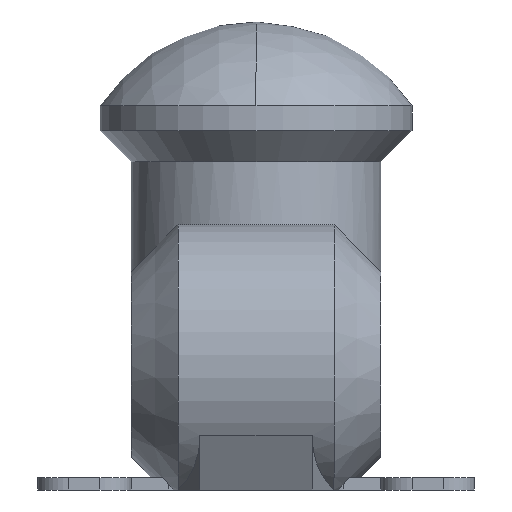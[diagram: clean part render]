
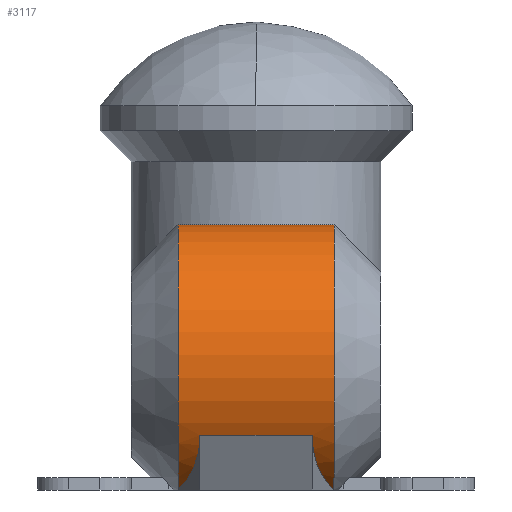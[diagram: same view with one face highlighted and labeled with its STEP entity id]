
A CAD part, front view. The second image highlights one B-rep face of the part: STEP entity #3117.
In plain terms, the highlighted cylindrical face has radius 4.5 mm (diameter 9 mm), a partial arc.
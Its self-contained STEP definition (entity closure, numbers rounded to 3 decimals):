
#124 = CARTESIAN_POINT ( 'NONE',  ( -2.5, -11.086, 0.013 ) ) ;
#189 = CIRCLE ( 'NONE', #1328, 4.5 ) ;
#207 = CARTESIAN_POINT ( 'NONE',  ( 1.8, -12.897, 1.75 ) ) ;
#456 = CARTESIAN_POINT ( 'NONE',  ( 2.5, -11.086, 0.013 ) ) ;
#475 = DIRECTION ( 'NONE',  ( 0., 0., -1. ) ) ;
#493 = CIRCLE ( 'NONE', #800, 4.5 ) ;
#518 = DIRECTION ( 'NONE',  ( -1., 0., 0. ) ) ;
#535 = CYLINDRICAL_SURFACE ( 'NONE', #2620, 4.5 ) ;
#585 = EDGE_LOOP ( 'NONE', ( #3319, #2879, #3200, #3273, #1463, #916 ) ) ;
#625 = EDGE_CURVE ( 'NONE', #2667, #3245, #3647, .T. ) ;
#727 = DIRECTION ( 'NONE',  ( -1., 0., 0. ) ) ;
#800 = AXIS2_PLACEMENT_3D ( 'NONE', #2385, #3539, #2092 ) ;
#831 = EDGE_CURVE ( 'NONE', #2989, #2667, #189, .T. ) ;
#891 = CARTESIAN_POINT ( 'NONE',  ( -2.5, -11.086, 0.013 ) ) ;
#911 = VERTEX_POINT ( 'NONE', #3179 ) ;
#916 = ORIENTED_EDGE ( 'NONE', *, *, #1145, .T. ) ;
#1145 = EDGE_CURVE ( 'NONE', #3658, #2027, #1567, .T. ) ;
#1303 = CARTESIAN_POINT ( 'NONE',  ( 2.5, -9., 8.5 ) ) ;
#1328 = AXIS2_PLACEMENT_3D ( 'NONE', #1408, #2816, #475 ) ;
#1399 = VECTOR ( 'NONE', #1698, 1000. ) ;
#1408 = CARTESIAN_POINT ( 'NONE',  ( -2.5, -9., 4. ) ) ;
#1411 = FACE_OUTER_BOUND ( 'NONE', #585, .T. ) ;
#1463 = ORIENTED_EDGE ( 'NONE', *, *, #1963, .F. ) ;
#1515 = CARTESIAN_POINT ( 'NONE',  ( 2.5, -11.086, 0.013 ) ) ;
#1567 =( BOUNDED_CURVE ( )  B_SPLINE_CURVE ( 3, ( #3532, #3268, #2953, #1515 ),
 .UNSPECIFIED., .F., .T. ) 
 B_SPLINE_CURVE_WITH_KNOTS ( ( 4, 4 ),
 ( 0., 0.565 ),
 .UNSPECIFIED. ) 
 CURVE ( )  GEOMETRIC_REPRESENTATION_ITEM ( )  RATIONAL_B_SPLINE_CURVE ( ( 1., 0.974, 0.974, 1. ) ) 
 REPRESENTATION_ITEM ( '' )  );
#1686 = CARTESIAN_POINT ( 'NONE',  ( 2.5, -9., 4. ) ) ;
#1698 = DIRECTION ( 'NONE',  ( -1., 0., 0. ) ) ;
#1704 = EDGE_CURVE ( 'NONE', #911, #2027, #493, .T. ) ;
#1706 = VECTOR ( 'NONE', #727, 1000. ) ;
#1841 = LINE ( 'NONE', #2413, #1706 ) ;
#1878 = CARTESIAN_POINT ( 'NONE',  ( -2.04, -11.847, 0.411 ) ) ;
#1963 = EDGE_CURVE ( 'NONE', #3658, #3245, #1841, .T. ) ;
#1974 = DIRECTION ( 'NONE',  ( 0., 0., 1. ) ) ;
#2027 = VERTEX_POINT ( 'NONE', #456 ) ;
#2092 = DIRECTION ( 'NONE',  ( 0., 0., -1. ) ) ;
#2336 = CARTESIAN_POINT ( 'NONE',  ( -2.5, -9., 8.5 ) ) ;
#2385 = CARTESIAN_POINT ( 'NONE',  ( 2.5, -9., 4. ) ) ;
#2413 = CARTESIAN_POINT ( 'NONE',  ( 2.5, -12.897, 1.75 ) ) ;
#2620 = AXIS2_PLACEMENT_3D ( 'NONE', #1686, #518, #1974 ) ;
#2667 = VERTEX_POINT ( 'NONE', #891 ) ;
#2719 = CARTESIAN_POINT ( 'NONE',  ( -1.8, -12.467, 1.006 ) ) ;
#2816 = DIRECTION ( 'NONE',  ( 1., 0., 0. ) ) ;
#2879 = ORIENTED_EDGE ( 'NONE', *, *, #3347, .T. ) ;
#2953 = CARTESIAN_POINT ( 'NONE',  ( 2.04, -11.847, 0.411 ) ) ;
#2989 = VERTEX_POINT ( 'NONE', #2336 ) ;
#3117 = ADVANCED_FACE ( 'NONE', ( #1411 ), #535, .T. ) ;
#3179 = CARTESIAN_POINT ( 'NONE',  ( 2.5, -9., 8.5 ) ) ;
#3200 = ORIENTED_EDGE ( 'NONE', *, *, #831, .T. ) ;
#3245 = VERTEX_POINT ( 'NONE', #3307 ) ;
#3253 = CARTESIAN_POINT ( 'NONE',  ( -1.8, -12.897, 1.75 ) ) ;
#3268 = CARTESIAN_POINT ( 'NONE',  ( 1.8, -12.467, 1.006 ) ) ;
#3273 = ORIENTED_EDGE ( 'NONE', *, *, #625, .T. ) ;
#3307 = CARTESIAN_POINT ( 'NONE',  ( -1.8, -12.897, 1.75 ) ) ;
#3319 = ORIENTED_EDGE ( 'NONE', *, *, #1704, .F. ) ;
#3347 = EDGE_CURVE ( 'NONE', #911, #2989, #3726, .T. ) ;
#3532 = CARTESIAN_POINT ( 'NONE',  ( 1.8, -12.897, 1.75 ) ) ;
#3539 = DIRECTION ( 'NONE',  ( 1., 0., 0. ) ) ;
#3647 =( BOUNDED_CURVE ( )  B_SPLINE_CURVE ( 3, ( #124, #1878, #2719, #3253 ),
 .UNSPECIFIED., .F., .T. ) 
 B_SPLINE_CURVE_WITH_KNOTS ( ( 4, 4 ),
 ( 2.576, 3.142 ),
 .UNSPECIFIED. ) 
 CURVE ( )  GEOMETRIC_REPRESENTATION_ITEM ( )  RATIONAL_B_SPLINE_CURVE ( ( 1., 0.974, 0.974, 1. ) ) 
 REPRESENTATION_ITEM ( '' )  );
#3658 = VERTEX_POINT ( 'NONE', #207 ) ;
#3726 = LINE ( 'NONE', #1303, #1399 ) ;
